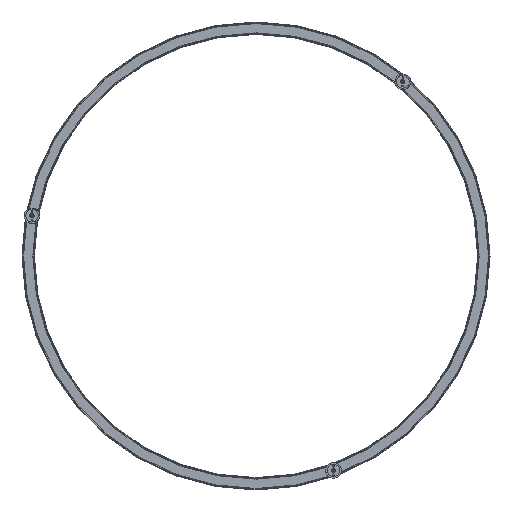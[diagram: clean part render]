
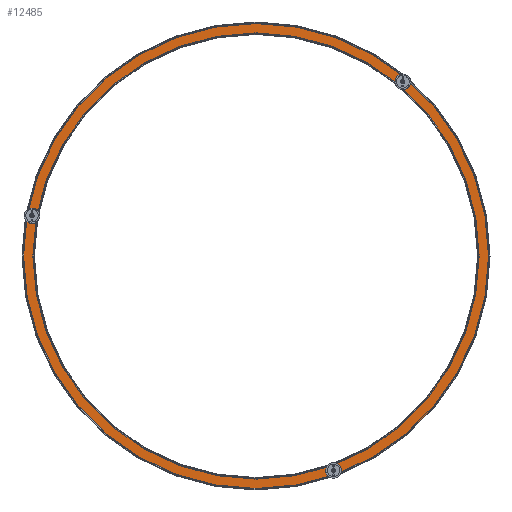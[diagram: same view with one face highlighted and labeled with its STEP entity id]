
A CAD part, front view. The second image highlights one B-rep face of the part: STEP entity #12485.
In plain terms, the highlighted planar face has unit normal (0, -1, 0).
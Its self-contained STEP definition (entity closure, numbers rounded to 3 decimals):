
#248 = ORIENTED_EDGE ( 'NONE', *, *, #11618, .F. ) ;
#467 = VERTEX_POINT ( 'NONE', #7508 ) ;
#687 = AXIS2_PLACEMENT_3D ( 'NONE', #12243, #7814, #12098 ) ;
#877 = DIRECTION ( 'NONE',  ( 0., 0., -1. ) ) ;
#1083 = VERTEX_POINT ( 'NONE', #2336 ) ;
#1099 = ORIENTED_EDGE ( 'NONE', *, *, #2165, .F. ) ;
#1120 = ORIENTED_EDGE ( 'NONE', *, *, #2657, .F. ) ;
#1227 = CIRCLE ( 'NONE', #6248, 6. ) ;
#1423 = ORIENTED_EDGE ( 'NONE', *, *, #6129, .T. ) ;
#1474 = DIRECTION ( 'NONE',  ( 0., -1., 0. ) ) ;
#1509 = FACE_OUTER_BOUND ( 'NONE', #1774, .T. ) ;
#1774 = EDGE_LOOP ( 'NONE', ( #248, #12682 ) ) ;
#1801 = AXIS2_PLACEMENT_3D ( 'NONE', #10232, #12514, #3833 ) ;
#1848 = CIRCLE ( 'NONE', #9878, 6. ) ;
#2165 = EDGE_CURVE ( 'NONE', #10355, #11848, #11269, .T. ) ;
#2220 = AXIS2_PLACEMENT_3D ( 'NONE', #8353, #11713, #8447 ) ;
#2336 = CARTESIAN_POINT ( 'NONE',  ( 0., 0., 498.25 ) ) ;
#2657 = EDGE_CURVE ( 'NONE', #11848, #10355, #9322, .T. ) ;
#2769 = VERTEX_POINT ( 'NONE', #6162 ) ;
#2908 = EDGE_CURVE ( 'NONE', #3330, #2769, #6287, .T. ) ;
#3249 = EDGE_LOOP ( 'NONE', ( #3805, #1423 ) ) ;
#3326 = AXIS2_PLACEMENT_3D ( 'NONE', #13596, #9358, #7068 ) ;
#3330 = VERTEX_POINT ( 'NONE', #7889 ) ;
#3690 = FACE_BOUND ( 'NONE', #10319, .T. ) ;
#3805 = ORIENTED_EDGE ( 'NONE', *, *, #10537, .T. ) ;
#3833 = DIRECTION ( 'NONE',  ( 0., 0., 1. ) ) ;
#4050 = CIRCLE ( 'NONE', #8011, 6. ) ;
#4473 = ORIENTED_EDGE ( 'NONE', *, *, #6582, .F. ) ;
#4508 = AXIS2_PLACEMENT_3D ( 'NONE', #10717, #11794, #8634 ) ;
#4585 = DIRECTION ( 'NONE',  ( 0., -1., 0. ) ) ;
#5101 = VERTEX_POINT ( 'NONE', #5712 ) ;
#5208 = FACE_BOUND ( 'NONE', #6981, .T. ) ;
#5712 = CARTESIAN_POINT ( 'NONE',  ( 0., 0., 475.25 ) ) ;
#6031 = DIRECTION ( 'NONE',  ( 0., -1., 0. ) ) ;
#6129 = EDGE_CURVE ( 'NONE', #5101, #467, #12081, .T. ) ;
#6162 = CARTESIAN_POINT ( 'NONE',  ( 313.903, 0., 378.125 ) ) ;
#6248 = AXIS2_PLACEMENT_3D ( 'NONE', #7970, #6031, #12259 ) ;
#6287 = CIRCLE ( 'NONE', #2220, 6. ) ;
#6327 = VERTEX_POINT ( 'NONE', #7294 ) ;
#6566 = VERTEX_POINT ( 'NONE', #10926 ) ;
#6582 = EDGE_CURVE ( 'NONE', #2769, #3330, #4050, .T. ) ;
#6738 = DIRECTION ( 'NONE',  ( 0., 0., -1. ) ) ;
#6849 = EDGE_CURVE ( 'NONE', #1083, #7592, #13406, .T. ) ;
#6947 = EDGE_CURVE ( 'NONE', #6566, #6327, #1848, .T. ) ;
#6971 = DIRECTION ( 'NONE',  ( 0., 0., 1. ) ) ;
#6981 = EDGE_LOOP ( 'NONE', ( #1099, #1120 ) ) ;
#7068 = DIRECTION ( 'NONE',  ( 0., 0., 1. ) ) ;
#7294 = CARTESIAN_POINT ( 'NONE',  ( 166.114, 0., -464.331 ) ) ;
#7508 = CARTESIAN_POINT ( 'NONE',  ( 0., 0., -475.25 ) ) ;
#7588 = PLANE ( 'NONE',  #4508 ) ;
#7592 = VERTEX_POINT ( 'NONE', #10439 ) ;
#7814 = DIRECTION ( 'NONE',  ( 0., 1., 0. ) ) ;
#7889 = CARTESIAN_POINT ( 'NONE',  ( 313.903, 0., 366.125 ) ) ;
#7890 = CIRCLE ( 'NONE', #13421, 498.25 ) ;
#7970 = CARTESIAN_POINT ( 'NONE',  ( 166.114, 0., -458.331 ) ) ;
#8011 = AXIS2_PLACEMENT_3D ( 'NONE', #10978, #4585, #6738 ) ;
#8279 = DIRECTION ( 'NONE',  ( 0., -1., 0. ) ) ;
#8353 = CARTESIAN_POINT ( 'NONE',  ( 313.903, 0., 372.125 ) ) ;
#8384 = FACE_BOUND ( 'NONE', #8518, .T. ) ;
#8447 = DIRECTION ( 'NONE',  ( 0., 0., -1. ) ) ;
#8509 = ORIENTED_EDGE ( 'NONE', *, *, #10365, .F. ) ;
#8518 = EDGE_LOOP ( 'NONE', ( #12792, #4473 ) ) ;
#8634 = DIRECTION ( 'NONE',  ( 0., 0., 1. ) ) ;
#8867 = CARTESIAN_POINT ( 'NONE',  ( -478.652, 0., 80.004 ) ) ;
#8915 = CARTESIAN_POINT ( 'NONE',  ( -478.652, 0., 86.004 ) ) ;
#9086 = CIRCLE ( 'NONE', #687, 475.25 ) ;
#9232 = AXIS2_PLACEMENT_3D ( 'NONE', #13685, #10455, #10551 ) ;
#9322 = CIRCLE ( 'NONE', #11835, 6. ) ;
#9358 = DIRECTION ( 'NONE',  ( 0., 1., 0. ) ) ;
#9437 = CARTESIAN_POINT ( 'NONE',  ( 166.114, 0., -458.331 ) ) ;
#9670 = ORIENTED_EDGE ( 'NONE', *, *, #6947, .F. ) ;
#9799 = CARTESIAN_POINT ( 'NONE',  ( -478.652, 0., 92.004 ) ) ;
#9878 = AXIS2_PLACEMENT_3D ( 'NONE', #9437, #8279, #877 ) ;
#10051 = FACE_BOUND ( 'NONE', #3249, .T. ) ;
#10074 = DIRECTION ( 'NONE',  ( 0., 0., -1. ) ) ;
#10232 = CARTESIAN_POINT ( 'NONE',  ( 0., 0., 0. ) ) ;
#10319 = EDGE_LOOP ( 'NONE', ( #8509, #9670 ) ) ;
#10355 = VERTEX_POINT ( 'NONE', #8867 ) ;
#10365 = EDGE_CURVE ( 'NONE', #6327, #6566, #1227, .T. ) ;
#10439 = CARTESIAN_POINT ( 'NONE',  ( 0., 0., -498.25 ) ) ;
#10455 = DIRECTION ( 'NONE',  ( 0., -1., 0. ) ) ;
#10537 = EDGE_CURVE ( 'NONE', #467, #5101, #9086, .T. ) ;
#10551 = DIRECTION ( 'NONE',  ( 0., 0., -1. ) ) ;
#10717 = CARTESIAN_POINT ( 'NONE',  ( 0., 0., 0. ) ) ;
#10926 = CARTESIAN_POINT ( 'NONE',  ( 166.114, 0., -452.331 ) ) ;
#10978 = CARTESIAN_POINT ( 'NONE',  ( 313.903, 0., 372.125 ) ) ;
#11065 = DIRECTION ( 'NONE',  ( 0., 1., 0. ) ) ;
#11269 = CIRCLE ( 'NONE', #9232, 6. ) ;
#11618 = EDGE_CURVE ( 'NONE', #7592, #1083, #7890, .T. ) ;
#11713 = DIRECTION ( 'NONE',  ( 0., -1., 0. ) ) ;
#11794 = DIRECTION ( 'NONE',  ( 0., 1., 0. ) ) ;
#11835 = AXIS2_PLACEMENT_3D ( 'NONE', #8915, #1474, #10074 ) ;
#11848 = VERTEX_POINT ( 'NONE', #9799 ) ;
#12081 = CIRCLE ( 'NONE', #3326, 475.25 ) ;
#12098 = DIRECTION ( 'NONE',  ( 0., 0., 1. ) ) ;
#12243 = CARTESIAN_POINT ( 'NONE',  ( 0., 0., 0. ) ) ;
#12259 = DIRECTION ( 'NONE',  ( 0., 0., -1. ) ) ;
#12485 = ADVANCED_FACE ( 'NONE', ( #3690, #5208, #8384, #1509, #10051 ), #7588, .F. ) ;
#12514 = DIRECTION ( 'NONE',  ( 0., 1., 0. ) ) ;
#12682 = ORIENTED_EDGE ( 'NONE', *, *, #6849, .F. ) ;
#12792 = ORIENTED_EDGE ( 'NONE', *, *, #2908, .F. ) ;
#13362 = CARTESIAN_POINT ( 'NONE',  ( 0., 0., 0. ) ) ;
#13406 = CIRCLE ( 'NONE', #1801, 498.25 ) ;
#13421 = AXIS2_PLACEMENT_3D ( 'NONE', #13362, #11065, #6971 ) ;
#13596 = CARTESIAN_POINT ( 'NONE',  ( 0., 0., 0. ) ) ;
#13685 = CARTESIAN_POINT ( 'NONE',  ( -478.652, 0., 86.004 ) ) ;
